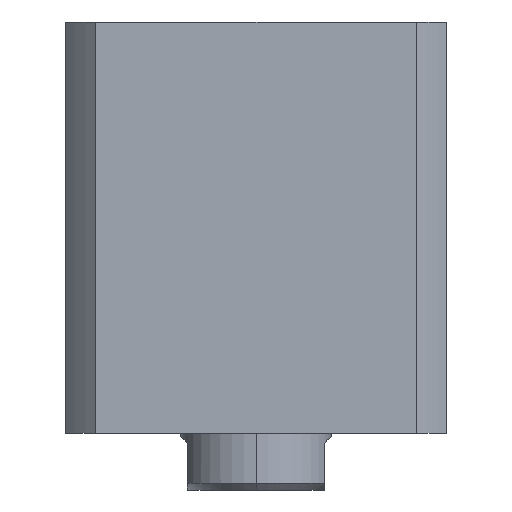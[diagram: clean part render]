
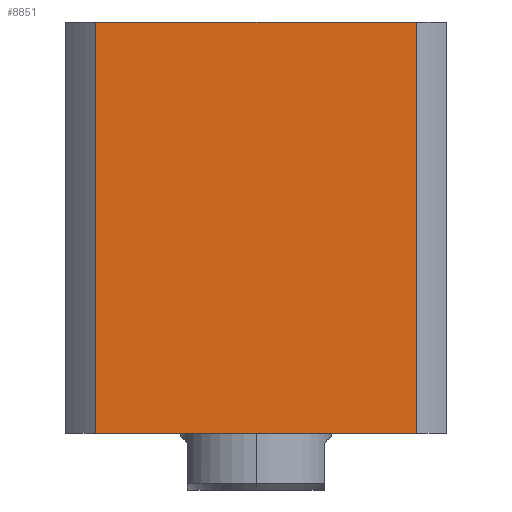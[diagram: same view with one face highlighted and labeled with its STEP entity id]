
A CAD part, front view. The second image highlights one B-rep face of the part: STEP entity #8851.
In plain terms, the highlighted planar face has unit normal (0, -1, 0) as drawn and (-1, 0, 0) by its records, which use the part's own axes.
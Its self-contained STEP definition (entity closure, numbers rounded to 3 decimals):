
#1134 = VECTOR ( 'NONE', #14723, 1000. ) ;
#2745 = CARTESIAN_POINT ( 'NONE',  ( -57., -47.971, 123. ) ) ;
#3007 = EDGE_LOOP ( 'NONE', ( #6070, #9924, #4792, #6080 ) ) ;
#3026 = CARTESIAN_POINT ( 'NONE',  ( -57., 57., 123. ) ) ;
#3038 = DIRECTION ( 'NONE',  ( 0., 1., 0. ) ) ;
#3416 = LINE ( 'NONE', #14502, #12783 ) ;
#3735 = DIRECTION ( 'NONE',  ( 0., 0., -1. ) ) ;
#3940 = LINE ( 'NONE', #3026, #1134 ) ;
#4532 = EDGE_CURVE ( 'NONE', #5790, #13007, #3940, .T. ) ;
#4670 = VECTOR ( 'NONE', #12463, 1000. ) ;
#4792 = ORIENTED_EDGE ( 'NONE', *, *, #8245, .F. ) ;
#5133 = PLANE ( 'NONE',  #7734 ) ;
#5364 = EDGE_CURVE ( 'NONE', #6443, #11740, #7788, .T. ) ;
#5609 = FACE_OUTER_BOUND ( 'NONE', #3007, .T. ) ;
#5790 = VERTEX_POINT ( 'NONE', #8237 ) ;
#6070 = ORIENTED_EDGE ( 'NONE', *, *, #10361, .F. ) ;
#6080 = ORIENTED_EDGE ( 'NONE', *, *, #4532, .F. ) ;
#6443 = VERTEX_POINT ( 'NONE', #10022 ) ;
#7734 = AXIS2_PLACEMENT_3D ( 'NONE', #8918, #10110, #3038 ) ;
#7742 = CARTESIAN_POINT ( 'NONE',  ( -57., 57., 0. ) ) ;
#7758 = VECTOR ( 'NONE', #3735, 1000. ) ;
#7788 = LINE ( 'NONE', #7742, #4670 ) ;
#8141 = LINE ( 'NONE', #11969, #7758 ) ;
#8237 = CARTESIAN_POINT ( 'NONE',  ( -57., 47.971, 123. ) ) ;
#8245 = EDGE_CURVE ( 'NONE', #13007, #11740, #8141, .T. ) ;
#8829 = CARTESIAN_POINT ( 'NONE',  ( -57., -47.971, 0. ) ) ;
#8851 = ADVANCED_FACE ( 'NONE', ( #5609 ), #5133, .F. ) ;
#8918 = CARTESIAN_POINT ( 'NONE',  ( -57., 57., 123. ) ) ;
#9924 = ORIENTED_EDGE ( 'NONE', *, *, #5364, .T. ) ;
#10022 = CARTESIAN_POINT ( 'NONE',  ( -57., 47.971, 0. ) ) ;
#10110 = DIRECTION ( 'NONE',  ( 1., 0., 0. ) ) ;
#10361 = EDGE_CURVE ( 'NONE', #6443, #5790, #3416, .T. ) ;
#11740 = VERTEX_POINT ( 'NONE', #8829 ) ;
#11969 = CARTESIAN_POINT ( 'NONE',  ( -57., -47.971, -177. ) ) ;
#12313 = DIRECTION ( 'NONE',  ( 0., 0., 1. ) ) ;
#12463 = DIRECTION ( 'NONE',  ( 0., -1., 0. ) ) ;
#12783 = VECTOR ( 'NONE', #12313, 1000. ) ;
#13007 = VERTEX_POINT ( 'NONE', #2745 ) ;
#14502 = CARTESIAN_POINT ( 'NONE',  ( -57., 47.971, -177. ) ) ;
#14723 = DIRECTION ( 'NONE',  ( 0., -1., 0. ) ) ;
